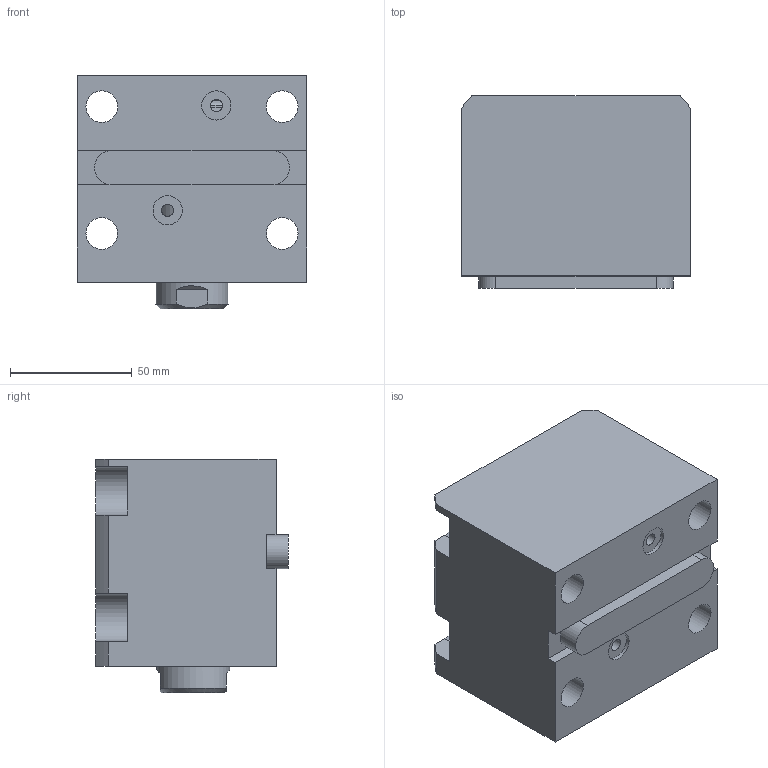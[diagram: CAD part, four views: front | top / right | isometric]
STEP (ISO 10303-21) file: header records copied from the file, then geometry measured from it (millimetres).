
FILE_DESCRIPTION(/* description */ (''),/* implementation_level */ '2;1');
FILE_NAME(/* name */ 'CHTB-LAM50-25N.stp',/* time_stamp */ '2022-04-29T18:01:12+08:00',/* author */ (''),/* organization */ (''),/* preprocessor_version */ 'ST-DEVELOPER v16.7',/* originating_system */ 'SIEMENS PLM Software NX 12.0',/* authorisation */ '');
FILE_SCHEMA (('AUTOMOTIVE_DESIGN { 1 0 10303 214 3 1 1 1 }'));
Length unit declared in the file: millimetre
Products named in the file (1): CHTB-LAM50-25N
Bounding box: 94 x 79 x 96 mm (x, y, z)
Volume: 506009.5 mm3; surface area: 97636.7 mm2
Topology: 3 solids, 3 shells, 459 faces, 1275 edges, 860 vertices
Faces by surface type: plane 309, extrusion 83, cylinder 41, torus 11, bspline 8, cone 7
Full cylindrical faces by diameter (mm): 4 x2, 5 x2, 12 x2, 13 x4, 19 x1, 30 x2, 39 x1, 44 x2, 46 x1, 50 x5, 59 x1
Entity records: 21812 total; most frequent: CARTESIAN_POINT 8224, ORIENTED_EDGE 2444, DIRECTION 1892, EDGE_CURVE 1222, VECTOR 968, LINE 885, VERTEX_POINT 852, EDGE_LOOP 553
